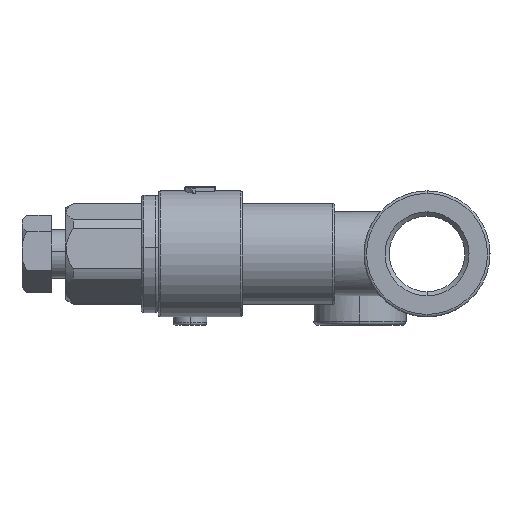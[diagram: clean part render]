
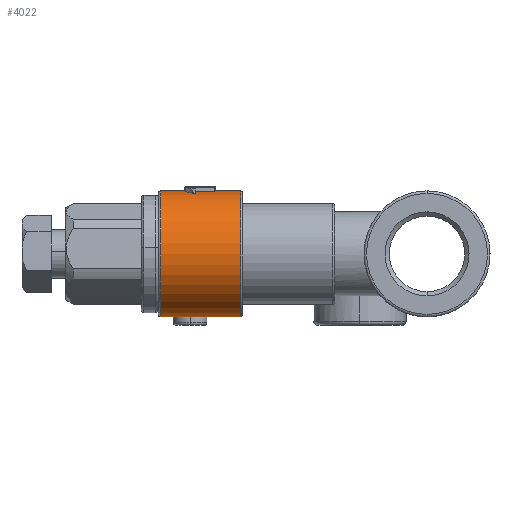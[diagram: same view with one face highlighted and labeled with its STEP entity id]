
A CAD part, left-side view. The second image highlights one B-rep face of the part: STEP entity #4022.
In plain terms, the highlighted cylindrical face has radius 7.5 mm (diameter 15 mm), a partial arc.
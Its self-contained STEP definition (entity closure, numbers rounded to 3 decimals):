
#391 = ORIENTED_EDGE ( 'NONE', *, *, #691, .T. ) ;
#414 = VERTEX_POINT ( 'NONE', #17039 ) ;
#691 = EDGE_CURVE ( 'NONE', #18762, #11762, #22557, .T. ) ;
#780 = CYLINDRICAL_SURFACE ( 'NONE', #9667, 7.5 ) ;
#1240 = ORIENTED_EDGE ( 'NONE', *, *, #14525, .T. ) ;
#1448 = DIRECTION ( 'NONE',  ( 0., 0., -1. ) ) ;
#1554 = EDGE_LOOP ( 'NONE', ( #3144, #391, #6763, #1240 ) ) ;
#2379 = VECTOR ( 'NONE', #3974, 1000. ) ;
#3144 = ORIENTED_EDGE ( 'NONE', *, *, #3400, .F. ) ;
#3400 = EDGE_CURVE ( 'NONE', #18762, #3678, #15262, .T. ) ;
#3678 = VERTEX_POINT ( 'NONE', #8256 ) ;
#3974 = DIRECTION ( 'NONE',  ( 0., -1., 0. ) ) ;
#4022 = ADVANCED_FACE ( 'NONE', ( #18045 ), #780, .T. ) ;
#5464 = CARTESIAN_POINT ( 'NONE',  ( 2.726, 50.382, 126.504 ) ) ;
#5699 = LINE ( 'NONE', #11027, #2379 ) ;
#5802 = CARTESIAN_POINT ( 'NONE',  ( 2.726, 82.082, 126.504 ) ) ;
#6763 = ORIENTED_EDGE ( 'NONE', *, *, #18654, .T. ) ;
#8256 = CARTESIAN_POINT ( 'NONE',  ( 2.726, 72.582, 134.004 ) ) ;
#8969 = DIRECTION ( 'NONE',  ( 0., 0., -1. ) ) ;
#9667 = AXIS2_PLACEMENT_3D ( 'NONE', #5464, #19621, #8969 ) ;
#10574 = DIRECTION ( 'NONE',  ( 0., -1., 0. ) ) ;
#11027 = CARTESIAN_POINT ( 'NONE',  ( 2.726, 50.382, 119.004 ) ) ;
#11762 = VERTEX_POINT ( 'NONE', #12801 ) ;
#12086 = CARTESIAN_POINT ( 'NONE',  ( 2.726, 72.582, 126.504 ) ) ;
#12801 = CARTESIAN_POINT ( 'NONE',  ( 2.726, 82.082, 119.004 ) ) ;
#12988 = DIRECTION ( 'NONE',  ( 0., 0., 1. ) ) ;
#13710 = AXIS2_PLACEMENT_3D ( 'NONE', #12086, #21035, #1448 ) ;
#14067 = CARTESIAN_POINT ( 'NONE',  ( 2.726, 82.082, 134.004 ) ) ;
#14525 = EDGE_CURVE ( 'NONE', #414, #3678, #17117, .T. ) ;
#15262 = LINE ( 'NONE', #21160, #18600 ) ;
#16248 = DIRECTION ( 'NONE',  ( 0., -1., 0. ) ) ;
#17039 = CARTESIAN_POINT ( 'NONE',  ( 2.726, 72.582, 119.004 ) ) ;
#17117 = CIRCLE ( 'NONE', #13710, 7.5 ) ;
#18045 = FACE_OUTER_BOUND ( 'NONE', #1554, .T. ) ;
#18600 = VECTOR ( 'NONE', #10574, 1000. ) ;
#18654 = EDGE_CURVE ( 'NONE', #11762, #414, #5699, .T. ) ;
#18762 = VERTEX_POINT ( 'NONE', #14067 ) ;
#19621 = DIRECTION ( 'NONE',  ( 0., -1., 0. ) ) ;
#21035 = DIRECTION ( 'NONE',  ( 0., 1., 0. ) ) ;
#21077 = AXIS2_PLACEMENT_3D ( 'NONE', #5802, #16248, #12988 ) ;
#21160 = CARTESIAN_POINT ( 'NONE',  ( 2.726, 50.382, 134.004 ) ) ;
#22557 = CIRCLE ( 'NONE', #21077, 7.5 ) ;
